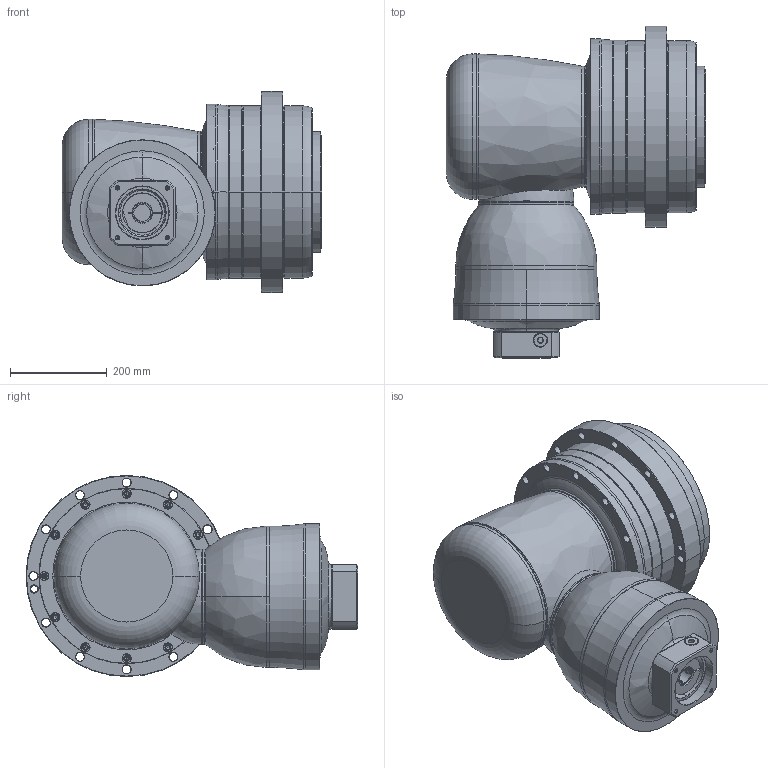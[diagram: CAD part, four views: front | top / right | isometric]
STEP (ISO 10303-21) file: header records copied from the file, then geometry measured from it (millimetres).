
FILE_DESCRIPTION((''),'2;1');
FILE_NAME('AHKB355_3ST_35-P0409800101_ASM','2016-12-09T',('d01943'),(''),'PRO/ENGINEER BY PARAMETRIC TECHNOLOGY CORPORATION, 2008410','PRO/ENGINEER BY PARAMETRIC TECHNOLOGY CORPORATION, 2008410','');
FILE_SCHEMA(('CONFIG_CONTROL_DESIGN'));
Length unit declared in the file: millimetre
Products named in the file (12): P1008800002; P1831100001; P0276100003; P0357100003; P1315800001; P1007800001; P1317800001; P0409800101; P0503800012; P0912700001; 21711422019; AHKB355_3ST_35-P0409800101_ASM
Assembly tree (11 placements, depth 2):
  AHKB355_3ST_35-P0409800101_ASM
    P1008800002
    P1831100001
    P0276100003
    P0357100003
    P1315800001
    P1007800001
    P1317800001
    P0409800101
    P0503800012
    P0912700001
    21711422019
Bounding box: 535 x 684.5 x 415 mm (x, y, z)
Volume: 44041473.4 mm3; surface area: 2413968.1 mm2
Topology: 12 solids, 12 shells, 1053 faces, 2342 edges, 1340 vertices
Faces by surface type: cylinder 381, cone 374, torus 140, plane 130, bspline 26, sphere 2
Entity records: 34169 total; most frequent: CARTESIAN_POINT 10199, DIRECTION 5562, ORIENTED_EDGE 4508, AXIS2_PLACEMENT_3D 2370, EDGE_CURVE 2254, VERTEX_POINT 1340, CIRCLE 1320, EDGE_LOOP 1268
